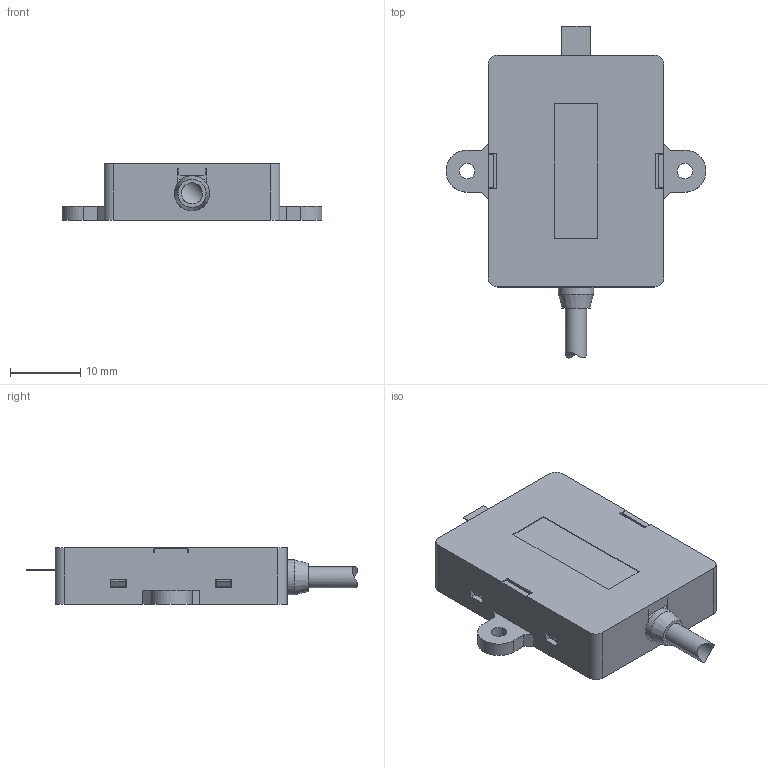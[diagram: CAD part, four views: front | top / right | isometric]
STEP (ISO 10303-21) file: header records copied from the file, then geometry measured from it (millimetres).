
FILE_DESCRIPTION(('STEP AP242'),'1');
FILE_NAME('L16E01B IF BOX MA-3P.stp','2023-01-19T07:20:09',(' '),(' '),'Spatial InterOp 3D',' ',' ');
FILE_SCHEMA(('AP242_MANAGED_MODEL_BASED_3D_ENGINEERING_MIM_LF {1 0 10303 442 1 1 4}'));
Length unit declared in the file: millimetre
Products named in the file (5): ケーブル; 簡易ケーブルモデル; ゴムブッシュ; L16E01B IF BOX MA-3P; L16E01B I/F BOX MA-3P
Assembly tree (4 placements, depth 3):
  L16E01B IF BOX MA-3P
    ケーブル
      簡易ケーブルモデル
      ゴムブッシュ
    L16E01B I/F BOX MA-3P
Bounding box: 37 x 47.25 x 8 mm (x, y, z)
Volume: 6795.5 mm3; surface area: 3201.2 mm2
Topology: 3 solids, 7 shells, 166 faces, 415 edges, 275 vertices
Faces by surface type: plane 147, cylinder 18, cone 1
Full cylindrical faces by diameter (mm): 1.6 x4, 2.2 x2, 3 x2, 5 x1
Entity records: 6409 total; most frequent: CARTESIAN_POINT 884, ORIENTED_EDGE 808, DIRECTION 784, EDGE_CURVE 404, LINE 366, VECTOR 366, VERTEX_POINT 274, AXIS2_PLACEMENT_3D 209
